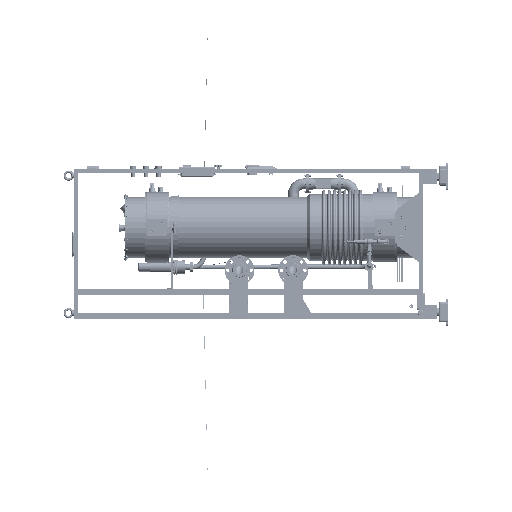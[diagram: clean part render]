
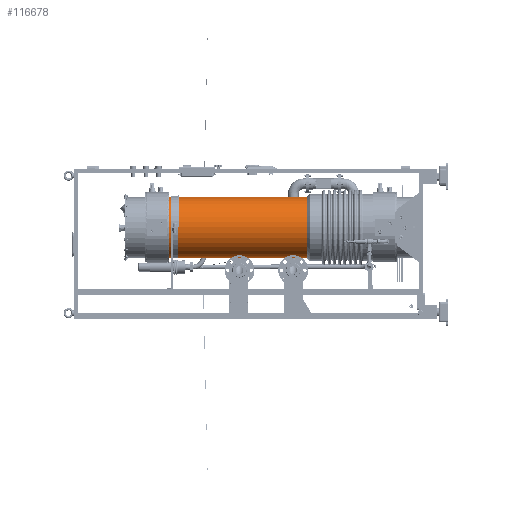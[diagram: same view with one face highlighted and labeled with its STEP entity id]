
A CAD part, left-side view. The second image highlights one B-rep face of the part: STEP entity #116678.
In plain terms, the highlighted cylindrical face has radius 162.5 mm (diameter 325 mm), a partial arc.
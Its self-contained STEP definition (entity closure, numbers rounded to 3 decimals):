
#12098 = VECTOR ( 'NONE', #58006, 1000. ) ;
#25692 = VERTEX_POINT ( 'NONE', #487418 ) ;
#32824 = DIRECTION ( 'NONE',  ( -1., 0., 0. ) ) ;
#44092 = EDGE_CURVE ( 'NONE', #53697, #401831, #299656, .T. ) ;
#53697 = VERTEX_POINT ( 'NONE', #310187 ) ;
#56980 = ORIENTED_EDGE ( 'NONE', *, *, #135510, .F. ) ;
#58006 = DIRECTION ( 'NONE',  ( -1., 0., 0. ) ) ;
#70896 = FACE_OUTER_BOUND ( 'NONE', #398756, .T. ) ;
#96659 = CARTESIAN_POINT ( 'NONE',  ( 355.057, 0., 155.95 ) ) ;
#100571 = VECTOR ( 'NONE', #351639, 1000. ) ;
#106635 = DIRECTION ( 'NONE',  ( -1., 0., 0. ) ) ;
#113455 = LINE ( 'NONE', #389724, #100571 ) ;
#116531 = CYLINDRICAL_SURFACE ( 'NONE', #485708, 162.5 ) ;
#116678 = ADVANCED_FACE ( 'NONE', ( #70896 ), #116531, .T. ) ;
#135510 = EDGE_CURVE ( 'NONE', #153548, #53697, #113455, .T. ) ;
#153548 = VERTEX_POINT ( 'NONE', #214021 ) ;
#173419 = EDGE_CURVE ( 'NONE', #153548, #25692, #223847, .T. ) ;
#175432 = AXIS2_PLACEMENT_3D ( 'NONE', #456078, #377456, #260859 ) ;
#177678 = DIRECTION ( 'NONE',  ( 0., 0., 1. ) ) ;
#214021 = CARTESIAN_POINT ( 'NONE',  ( 1095., 0., 318.45 ) ) ;
#223040 = CARTESIAN_POINT ( 'NONE',  ( -46.181, 0., 155.95 ) ) ;
#223847 = CIRCLE ( 'NONE', #175432, 162.5 ) ;
#260859 = DIRECTION ( 'NONE',  ( 0., 0., 1. ) ) ;
#264579 = CARTESIAN_POINT ( 'NONE',  ( 355.057, 0., -6.55 ) ) ;
#299656 = CIRCLE ( 'NONE', #307628, 162.5 ) ;
#306646 = DIRECTION ( 'NONE',  ( 0., 0., 1. ) ) ;
#307628 = AXIS2_PLACEMENT_3D ( 'NONE', #96659, #106635, #177678 ) ;
#310187 = CARTESIAN_POINT ( 'NONE',  ( 355.057, 0., 318.45 ) ) ;
#350403 = EDGE_CURVE ( 'NONE', #25692, #401831, #402873, .T. ) ;
#351639 = DIRECTION ( 'NONE',  ( -1., 0., 0. ) ) ;
#377456 = DIRECTION ( 'NONE',  ( -1., 0., 0. ) ) ;
#389724 = CARTESIAN_POINT ( 'NONE',  ( -46.181, 0., 318.45 ) ) ;
#398756 = EDGE_LOOP ( 'NONE', ( #476705, #404680, #437387, #56980 ) ) ;
#401831 = VERTEX_POINT ( 'NONE', #264579 ) ;
#402873 = LINE ( 'NONE', #440927, #12098 ) ;
#404680 = ORIENTED_EDGE ( 'NONE', *, *, #350403, .T. ) ;
#437387 = ORIENTED_EDGE ( 'NONE', *, *, #44092, .F. ) ;
#440927 = CARTESIAN_POINT ( 'NONE',  ( -46.181, 0., -6.55 ) ) ;
#456078 = CARTESIAN_POINT ( 'NONE',  ( 1095., 0., 155.95 ) ) ;
#476705 = ORIENTED_EDGE ( 'NONE', *, *, #173419, .T. ) ;
#485708 = AXIS2_PLACEMENT_3D ( 'NONE', #223040, #32824, #306646 ) ;
#487418 = CARTESIAN_POINT ( 'NONE',  ( 1095., 0., -6.55 ) ) ;
